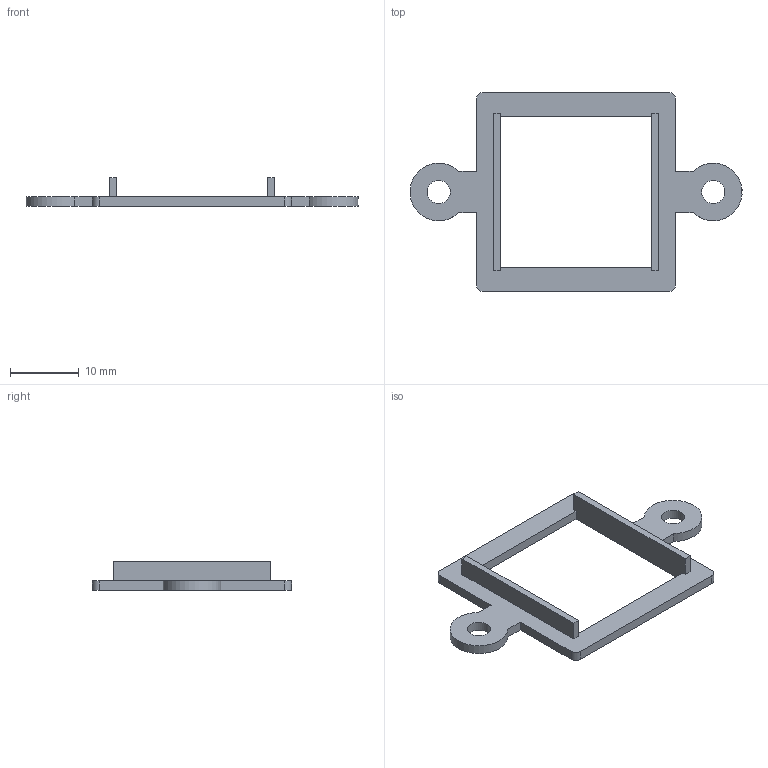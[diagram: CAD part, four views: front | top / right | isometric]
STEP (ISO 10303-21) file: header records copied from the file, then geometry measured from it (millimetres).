
FILE_DESCRIPTION(('Open CASCADE Model'),'2;1');
FILE_NAME('Open CASCADE Shape Model','2026-10-01T12:35:22',('Author'),( 'Open CASCADE'),'Open CASCADE STEP processor 7.8','Open CASCADE 7.8' ,'Unknown');
FILE_SCHEMA(('AUTOMOTIVE_DESIGN { 1 0 10303 214 1 1 1 1 }'));
Length unit declared in the file: millimetre
Products named in the file (2): P10_Touch_retaining_frame; P10_Touch_retaining_frame_solid
Assembly tree (1 placements, depth 2):
  P10_Touch_retaining_frame
    P10_Touch_retaining_frame_solid
Bounding box: 48.37 x 29 x 4.2 mm (x, y, z)
Volume: 785.6 mm3; surface area: 1572.8 mm2
Topology: 1 solids, 1 shells, 32 faces, 90 edges, 60 vertices
Faces by surface type: plane 24, cylinder 8
Full cylindrical faces by diameter (mm): 3.4 x2
Entity records: 2250 total; most frequent: CARTESIAN_POINT 426, DIRECTION 327, LINE 218, VECTOR 218, ORIENTED_EDGE 180, PCURVE 180, DEFINITIONAL_REPRESENTATION 180, EDGE_CURVE 90
